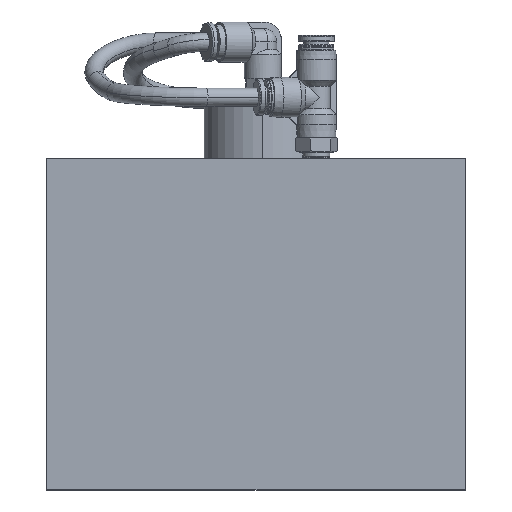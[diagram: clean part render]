
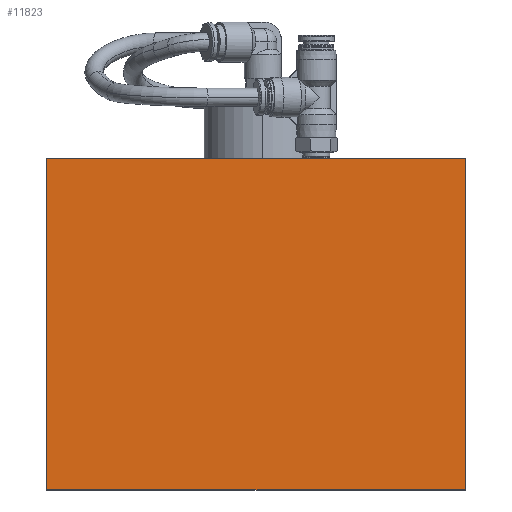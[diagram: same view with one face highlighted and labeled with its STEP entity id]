
A CAD part, top view. The second image highlights one B-rep face of the part: STEP entity #11823.
In plain terms, the highlighted planar face has unit normal (0, 0, 1).
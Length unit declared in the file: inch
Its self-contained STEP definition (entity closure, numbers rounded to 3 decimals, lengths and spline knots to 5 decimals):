
#28 = CARTESIAN_POINT ( 'NONE',  ( -2.804, 1.25, 3.063 ) ) ;
#152 = DIRECTION ( 'NONE',  ( 0., -1., 0. ) ) ;
#1288 = CARTESIAN_POINT ( 'NONE',  ( 2.571, -3., 3.063 ) ) ;
#1539 = CARTESIAN_POINT ( 'NONE',  ( -2.804, -3., 3.063 ) ) ;
#3519 = VECTOR ( 'NONE', #152, 39.37008 ) ;
#4015 = VECTOR ( 'NONE', #5478, 39.37008 ) ;
#4409 = ORIENTED_EDGE ( 'NONE', *, *, #25101, .T. ) ;
#4714 = EDGE_CURVE ( 'NONE', #24185, #10292, #9542, .T. ) ;
#4815 = ORIENTED_EDGE ( 'NONE', *, *, #17431, .T. ) ;
#5281 = CARTESIAN_POINT ( 'NONE',  ( -2.804, 1.25, 3.063 ) ) ;
#5478 = DIRECTION ( 'NONE',  ( 0., 1., 0. ) ) ;
#5516 = VECTOR ( 'NONE', #21907, 39.37008 ) ;
#8424 = ORIENTED_EDGE ( 'NONE', *, *, #4714, .T. ) ;
#8460 = CARTESIAN_POINT ( 'NONE',  ( -2.804, 1.25, 3.063 ) ) ;
#9022 = LINE ( 'NONE', #12613, #3519 ) ;
#9222 = ORIENTED_EDGE ( 'NONE', *, *, #15474, .T. ) ;
#9542 = LINE ( 'NONE', #1288, #4015 ) ;
#10292 = VERTEX_POINT ( 'NONE', #14341 ) ;
#10360 = LINE ( 'NONE', #5281, #5516 ) ;
#10540 = DIRECTION ( 'NONE',  ( 0., 0., -1. ) ) ;
#11560 = CARTESIAN_POINT ( 'NONE',  ( -2.804, -3., 3.063 ) ) ;
#11823 = ADVANCED_FACE ( 'NONE', ( #22228 ), #18824, .F. ) ;
#12613 = CARTESIAN_POINT ( 'NONE',  ( -2.804, -3., 3.063 ) ) ;
#14341 = CARTESIAN_POINT ( 'NONE',  ( 2.571, 1.25, 3.063 ) ) ;
#15474 = EDGE_CURVE ( 'NONE', #10292, #22830, #10360, .T. ) ;
#17431 = EDGE_CURVE ( 'NONE', #25826, #24185, #24261, .T. ) ;
#18619 = AXIS2_PLACEMENT_3D ( 'NONE', #8460, #10540, #25125 ) ;
#18824 = PLANE ( 'NONE',  #18619 ) ;
#19349 = VECTOR ( 'NONE', #20244, 39.37008 ) ;
#20244 = DIRECTION ( 'NONE',  ( 1., 0., 0. ) ) ;
#21907 = DIRECTION ( 'NONE',  ( -1., 0., 0. ) ) ;
#22228 = FACE_OUTER_BOUND ( 'NONE', #24624, .T. ) ;
#22830 = VERTEX_POINT ( 'NONE', #28 ) ;
#24185 = VERTEX_POINT ( 'NONE', #26129 ) ;
#24261 = LINE ( 'NONE', #1539, #19349 ) ;
#24624 = EDGE_LOOP ( 'NONE', ( #4409, #4815, #8424, #9222 ) ) ;
#25101 = EDGE_CURVE ( 'NONE', #22830, #25826, #9022, .T. ) ;
#25125 = DIRECTION ( 'NONE',  ( -1., 0., 0. ) ) ;
#25826 = VERTEX_POINT ( 'NONE', #11560 ) ;
#26129 = CARTESIAN_POINT ( 'NONE',  ( 2.571, -3., 3.063 ) ) ;
